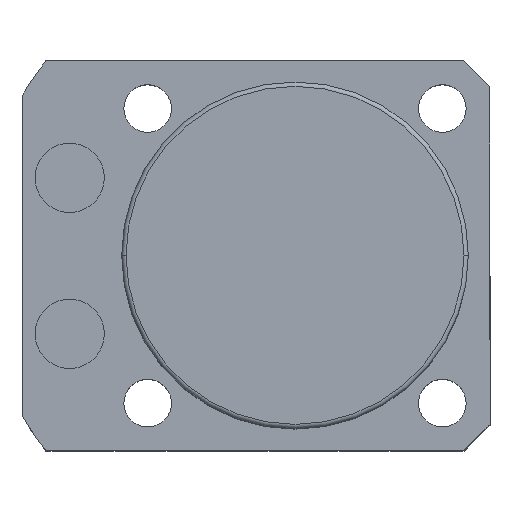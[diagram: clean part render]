
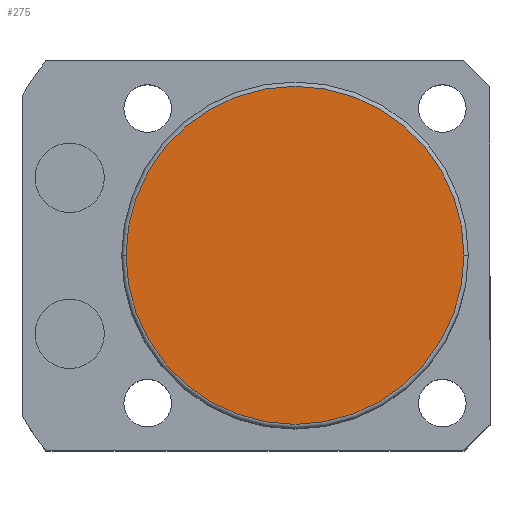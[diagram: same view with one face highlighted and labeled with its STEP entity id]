
A CAD part, top view. The second image highlights one B-rep face of the part: STEP entity #275.
In plain terms, the highlighted planar face has unit normal (0, 0, 1).
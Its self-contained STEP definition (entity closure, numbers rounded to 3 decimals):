
#51 = DIRECTION ( 'NONE',  ( 0., 0., 1. ) ) ;
#92 = CARTESIAN_POINT ( 'NONE',  ( 19.5, 0., 43.5 ) ) ;
#127 = DIRECTION ( 'NONE',  ( 1., 0., 0. ) ) ;
#196 = DIRECTION ( 'NONE',  ( 1., 0., 0. ) ) ;
#222 = CARTESIAN_POINT ( 'NONE',  ( 0., 0., 43.5 ) ) ;
#275 = ADVANCED_FACE ( 'NONE', ( #1726 ), #609, .T. ) ;
#405 = DIRECTION ( 'NONE',  ( 1., 0., 0. ) ) ;
#497 = AXIS2_PLACEMENT_3D ( 'NONE', #222, #1992, #405 ) ;
#537 = VERTEX_POINT ( 'NONE', #92 ) ;
#609 = PLANE ( 'NONE',  #497 ) ;
#791 = CARTESIAN_POINT ( 'NONE',  ( 0., 0., 43.5 ) ) ;
#907 = CIRCLE ( 'NONE', #1844, 19.5 ) ;
#994 = ORIENTED_EDGE ( 'NONE', *, *, #1919, .T. ) ;
#1105 = AXIS2_PLACEMENT_3D ( 'NONE', #2095, #2471, #127 ) ;
#1169 = EDGE_CURVE ( 'NONE', #2376, #537, #907, .T. ) ;
#1456 = ORIENTED_EDGE ( 'NONE', *, *, #1169, .T. ) ;
#1726 = FACE_OUTER_BOUND ( 'NONE', #1832, .T. ) ;
#1832 = EDGE_LOOP ( 'NONE', ( #994, #1456 ) ) ;
#1844 = AXIS2_PLACEMENT_3D ( 'NONE', #791, #51, #196 ) ;
#1868 = CIRCLE ( 'NONE', #1105, 19.5 ) ;
#1919 = EDGE_CURVE ( 'NONE', #537, #2376, #1868, .T. ) ;
#1992 = DIRECTION ( 'NONE',  ( 0., 0., 1. ) ) ;
#2010 = CARTESIAN_POINT ( 'NONE',  ( -19.5, 0., 43.5 ) ) ;
#2095 = CARTESIAN_POINT ( 'NONE',  ( 0., 0., 43.5 ) ) ;
#2376 = VERTEX_POINT ( 'NONE', #2010 ) ;
#2471 = DIRECTION ( 'NONE',  ( 0., 0., 1. ) ) ;
